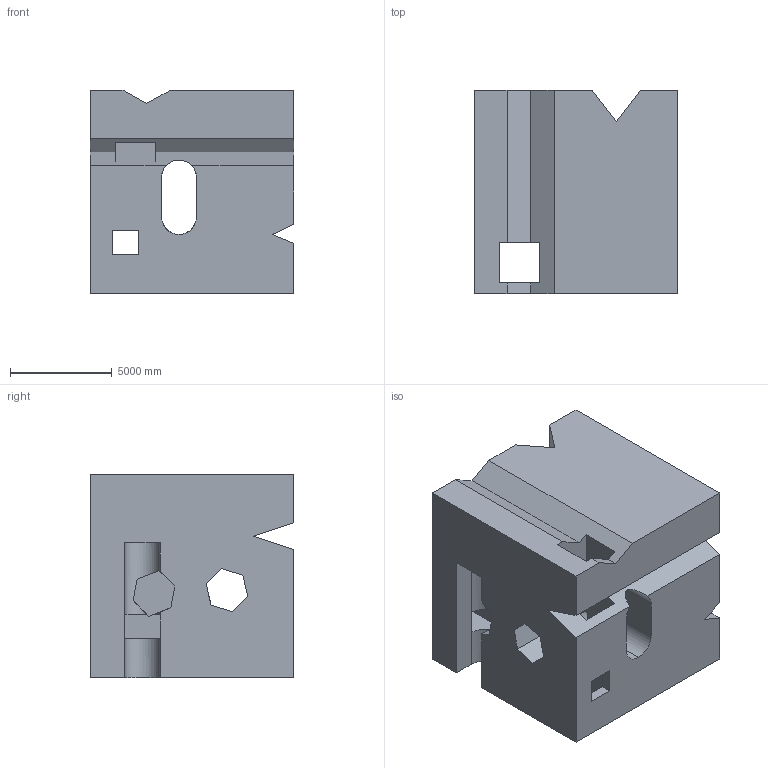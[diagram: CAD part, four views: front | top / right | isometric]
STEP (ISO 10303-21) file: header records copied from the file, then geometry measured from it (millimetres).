
FILE_DESCRIPTION (( 'STEP AP203' ), '1' );
FILE_NAME ('389.STEP', '2022-09-07T13:28:07', ( 'user' ), ( '' ), 'SwSTEP 2.0', 'SolidWorks 2021', '' );
FILE_SCHEMA (( 'CONFIG_CONTROL_DESIGN' ));
Length unit declared in the file: centimetre
Products named in the file (1): 389
Bounding box: 10000 x 10000 x 10000 mm (x, y, z)
Volume: 791026800725.2 mm3; surface area: 897078353.5 mm2
Topology: 1 solids, 1 shells, 69 faces, 246 edges, 164 vertices
Faces by surface type: plane 65, cylinder 4
Entity records: 2709 total; most frequent: CARTESIAN_POINT 540, ORIENTED_EDGE 492, DIRECTION 378, EDGE_CURVE 246, VECTOR 214, LINE 214, VERTEX_POINT 164, AXIS2_PLACEMENT_3D 82
